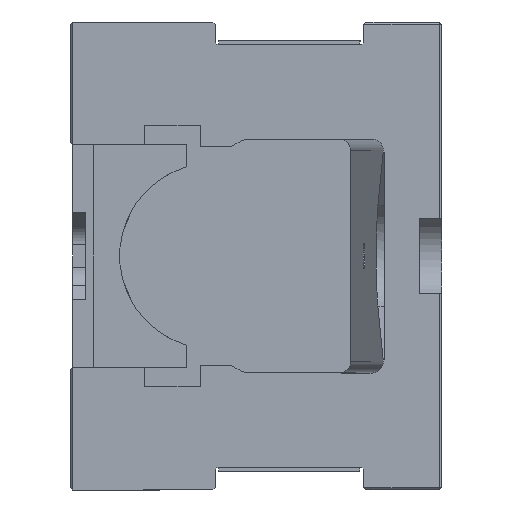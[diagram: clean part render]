
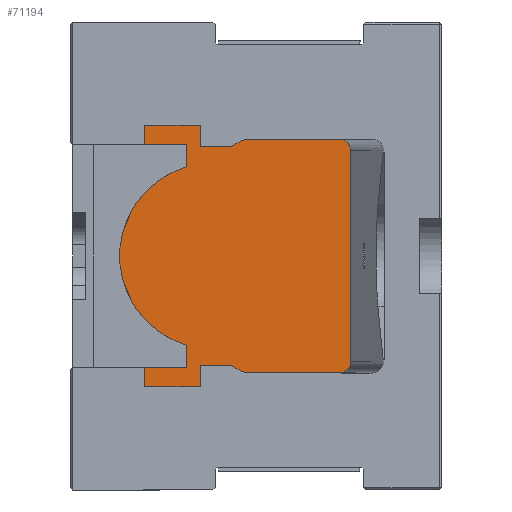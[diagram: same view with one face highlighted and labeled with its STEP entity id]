
A CAD part, left-side view. The second image highlights one B-rep face of the part: STEP entity #71194.
In plain terms, the highlighted planar face has unit normal (-1, 0, 0).
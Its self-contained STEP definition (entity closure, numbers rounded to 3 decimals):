
#980 = LINE ( 'NONE', #30917, #91135 ) ;
#2487 = CARTESIAN_POINT ( 'NONE',  ( 402., 28., 31.5 ) ) ;
#4087 = CARTESIAN_POINT ( 'NONE',  ( 402., 107., -30. ) ) ;
#5705 = DIRECTION ( 'NONE',  ( 0., -1., 0. ) ) ;
#6715 = LINE ( 'NONE', #78131, #30761 ) ;
#7072 = CARTESIAN_POINT ( 'NONE',  ( 402., 100., 30. ) ) ;
#7679 = LINE ( 'NONE', #55949, #52798 ) ;
#13089 = DIRECTION ( 'NONE',  ( 0., 1., 0. ) ) ;
#13829 = ORIENTED_EDGE ( 'NONE', *, *, #88154, .F. ) ;
#14378 = VERTEX_POINT ( 'NONE', #95382 ) ;
#15305 = FACE_OUTER_BOUND ( 'NONE', #49093, .T. ) ;
#17213 = ORIENTED_EDGE ( 'NONE', *, *, #29540, .F. ) ;
#17375 = AXIS2_PLACEMENT_3D ( 'NONE', #95418, #113476, #59634 ) ;
#17490 = LINE ( 'NONE', #47812, #38660 ) ;
#17989 = CARTESIAN_POINT ( 'NONE',  ( 402., 69., 35.25 ) ) ;
#19864 = VERTEX_POINT ( 'NONE', #7072 ) ;
#20087 = LINE ( 'NONE', #4087, #89079 ) ;
#20262 = CARTESIAN_POINT ( 'NONE',  ( 402., 69., -29.5 ) ) ;
#20540 = DIRECTION ( 'NONE',  ( 0., 0., 1. ) ) ;
#21253 = EDGE_CURVE ( 'NONE', #34501, #110810, #55374, .T. ) ;
#21542 = VERTEX_POINT ( 'NONE', #67077 ) ;
#22347 = CARTESIAN_POINT ( 'NONE',  ( 402., 63.737, 27.67 ) ) ;
#23598 = VECTOR ( 'NONE', #44942, 1000. ) ;
#23675 = VECTOR ( 'NONE', #20540, 1000. ) ;
#26853 = CARTESIAN_POINT ( 'NONE',  ( 402., 69., -100. ) ) ;
#27153 = DIRECTION ( 'NONE',  ( 0., 0., -1. ) ) ;
#27631 = CIRCLE ( 'NONE', #44864, 5. ) ;
#28047 = LINE ( 'NONE', #44856, #75945 ) ;
#28235 = EDGE_CURVE ( 'NONE', #71186, #112402, #6715, .T. ) ;
#28368 = CARTESIAN_POINT ( 'NONE',  ( 402., 84., -30. ) ) ;
#28541 = VERTEX_POINT ( 'NONE', #20262 ) ;
#29540 = EDGE_CURVE ( 'NONE', #14378, #56842, #17490, .T. ) ;
#29796 = AXIS2_PLACEMENT_3D ( 'NONE', #90026, #36135, #99121 ) ;
#30761 = VECTOR ( 'NONE', #33299, 1000. ) ;
#30917 = CARTESIAN_POINT ( 'NONE',  ( 402., 100., 57. ) ) ;
#31557 = VERTEX_POINT ( 'NONE', #28368 ) ;
#32651 = EDGE_CURVE ( 'NONE', #110257, #71186, #47495, .T. ) ;
#33299 = DIRECTION ( 'NONE',  ( 0., -1., 0. ) ) ;
#34501 = VERTEX_POINT ( 'NONE', #82040 ) ;
#35041 = LINE ( 'NONE', #90906, #80057 ) ;
#35093 = CARTESIAN_POINT ( 'NONE',  ( 402., 55.763, 26.5 ) ) ;
#36135 = DIRECTION ( 'NONE',  ( -1., 0., 0. ) ) ;
#36353 = VECTOR ( 'NONE', #67240, 1000. ) ;
#36898 = EDGE_CURVE ( 'NONE', #21542, #110257, #40892, .T. ) ;
#37088 = EDGE_CURVE ( 'NONE', #92934, #95354, #115339, .T. ) ;
#38546 = EDGE_CURVE ( 'NONE', #34501, #60691, #27631, .T. ) ;
#38660 = VECTOR ( 'NONE', #94685, 1000. ) ;
#39170 = LINE ( 'NONE', #22347, #36353 ) ;
#40892 = LINE ( 'NONE', #105879, #64834 ) ;
#41563 = ORIENTED_EDGE ( 'NONE', *, *, #96616, .F. ) ;
#42115 = VECTOR ( 'NONE', #92468, 1000. ) ;
#42469 = CARTESIAN_POINT ( 'NONE',  ( 402., 63.737, -27.67 ) ) ;
#42915 = DIRECTION ( 'NONE',  ( 0., -1., 0. ) ) ;
#44152 = DIRECTION ( 'NONE',  ( 0., 0., -1. ) ) ;
#44418 = DIRECTION ( 'NONE',  ( 0., -0.866, -0.5 ) ) ;
#44856 = CARTESIAN_POINT ( 'NONE',  ( 402., 28., 57. ) ) ;
#44864 = AXIS2_PLACEMENT_3D ( 'NONE', #35093, #98112, #44152 ) ;
#44897 = ORIENTED_EDGE ( 'NONE', *, *, #36898, .F. ) ;
#44942 = DIRECTION ( 'NONE',  ( 0., 0., -1. ) ) ;
#45709 = EDGE_CURVE ( 'NONE', #105197, #19864, #980, .T. ) ;
#46931 = DIRECTION ( 'NONE',  ( 0., 0., -1. ) ) ;
#47495 = LINE ( 'NONE', #26853, #23598 ) ;
#47812 = CARTESIAN_POINT ( 'NONE',  ( 402., 107., -35.25 ) ) ;
#49093 = EDGE_LOOP ( 'NONE', ( #55316, #67813, #51807, #80790, #103881, #116790, #112439, #44897, #87606, #13829, #93973, #41563, #62262, #17213, #79993, #73857, #61576, #98366 ) ) ;
#50526 = PLANE ( 'NONE',  #17375 ) ;
#50606 = CARTESIAN_POINT ( 'NONE',  ( 402., 55.763, 31.5 ) ) ;
#51277 = EDGE_CURVE ( 'NONE', #56842, #31557, #71520, .T. ) ;
#51807 = ORIENTED_EDGE ( 'NONE', *, *, #21253, .F. ) ;
#52798 = VECTOR ( 'NONE', #65032, 1000. ) ;
#53457 = LINE ( 'NONE', #81196, #95727 ) ;
#54001 = CARTESIAN_POINT ( 'NONE',  ( 402., 60.567, -29.5 ) ) ;
#55316 = ORIENTED_EDGE ( 'NONE', *, *, #87425, .T. ) ;
#55374 = LINE ( 'NONE', #50606, #100439 ) ;
#55726 = LINE ( 'NONE', #100923, #103640 ) ;
#55949 = CARTESIAN_POINT ( 'NONE',  ( 402., 84., -100. ) ) ;
#56017 = CARTESIAN_POINT ( 'NONE',  ( 402., 28., -31.5 ) ) ;
#56842 = VERTEX_POINT ( 'NONE', #106103 ) ;
#59634 = DIRECTION ( 'NONE',  ( 0., 0., 1. ) ) ;
#60691 = VERTEX_POINT ( 'NONE', #85538 ) ;
#61576 = ORIENTED_EDGE ( 'NONE', *, *, #37088, .T. ) ;
#62262 = ORIENTED_EDGE ( 'NONE', *, *, #51277, .F. ) ;
#64834 = VECTOR ( 'NONE', #42915, 1000. ) ;
#65032 = DIRECTION ( 'NONE',  ( 0., 0., 1. ) ) ;
#65177 = VERTEX_POINT ( 'NONE', #104591 ) ;
#65494 = CARTESIAN_POINT ( 'NONE',  ( 402., 60.567, 29.5 ) ) ;
#67077 = CARTESIAN_POINT ( 'NONE',  ( 402., 84., 35.25 ) ) ;
#67240 = DIRECTION ( 'NONE',  ( 0., 0.866, -0.5 ) ) ;
#67813 = ORIENTED_EDGE ( 'NONE', *, *, #104980, .F. ) ;
#67897 = CARTESIAN_POINT ( 'NONE',  ( 402., 69., 29.5 ) ) ;
#71186 = VERTEX_POINT ( 'NONE', #67897 ) ;
#71194 = ADVANCED_FACE ( 'NONE', ( #15305 ), #50526, .T. ) ;
#71520 = LINE ( 'NONE', #83461, #23675 ) ;
#72494 = CARTESIAN_POINT ( 'NONE',  ( 402., 58.263, -30.83 ) ) ;
#72582 = DIRECTION ( 'NONE',  ( 0., -1., 0. ) ) ;
#73857 = ORIENTED_EDGE ( 'NONE', *, *, #105051, .F. ) ;
#75945 = VECTOR ( 'NONE', #27153, 1000. ) ;
#78131 = CARTESIAN_POINT ( 'NONE',  ( 402., 107., 29.5 ) ) ;
#79993 = ORIENTED_EDGE ( 'NONE', *, *, #113644, .F. ) ;
#79996 = EDGE_CURVE ( 'NONE', #60691, #112402, #39170, .T. ) ;
#80057 = VECTOR ( 'NONE', #108999, 1000. ) ;
#80451 = CIRCLE ( 'NONE', #29796, 5. ) ;
#80790 = ORIENTED_EDGE ( 'NONE', *, *, #38546, .T. ) ;
#81196 = CARTESIAN_POINT ( 'NONE',  ( 402., 107., 30. ) ) ;
#82040 = CARTESIAN_POINT ( 'NONE',  ( 402., 55.763, 31.5 ) ) ;
#83461 = CARTESIAN_POINT ( 'NONE',  ( 402., 84., -100. ) ) ;
#84544 = CARTESIAN_POINT ( 'NONE',  ( 402., 100., -30. ) ) ;
#85538 = CARTESIAN_POINT ( 'NONE',  ( 402., 58.263, 30.83 ) ) ;
#87425 = EDGE_CURVE ( 'NONE', #88487, #112356, #92846, .T. ) ;
#87606 = ORIENTED_EDGE ( 'NONE', *, *, #101281, .F. ) ;
#88154 = EDGE_CURVE ( 'NONE', #19864, #65177, #53457, .T. ) ;
#88487 = VERTEX_POINT ( 'NONE', #95733 ) ;
#89079 = VECTOR ( 'NONE', #13089, 1000. ) ;
#90026 = CARTESIAN_POINT ( 'NONE',  ( 402., 55.763, -26.5 ) ) ;
#90906 = CARTESIAN_POINT ( 'NONE',  ( 402., 107., -29.5 ) ) ;
#91135 = VECTOR ( 'NONE', #93900, 1000. ) ;
#92468 = DIRECTION ( 'NONE',  ( 0., -1., 0. ) ) ;
#92846 = LINE ( 'NONE', #101552, #42115 ) ;
#92934 = VERTEX_POINT ( 'NONE', #54001 ) ;
#93900 = DIRECTION ( 'NONE',  ( 0., 0., 1. ) ) ;
#93973 = ORIENTED_EDGE ( 'NONE', *, *, #45709, .F. ) ;
#94685 = DIRECTION ( 'NONE',  ( 0., 1., 0. ) ) ;
#95354 = VERTEX_POINT ( 'NONE', #72494 ) ;
#95382 = CARTESIAN_POINT ( 'NONE',  ( 402., 69., -35.25 ) ) ;
#95418 = CARTESIAN_POINT ( 'NONE',  ( 402., 0., 0. ) ) ;
#95727 = VECTOR ( 'NONE', #72582, 1000. ) ;
#95733 = CARTESIAN_POINT ( 'NONE',  ( 402., 55.763, -31.5 ) ) ;
#96616 = EDGE_CURVE ( 'NONE', #31557, #105197, #20087, .T. ) ;
#98112 = DIRECTION ( 'NONE',  ( -1., 0., 0. ) ) ;
#98366 = ORIENTED_EDGE ( 'NONE', *, *, #110236, .T. ) ;
#99121 = DIRECTION ( 'NONE',  ( 0., 0., -1. ) ) ;
#100439 = VECTOR ( 'NONE', #5705, 1000. ) ;
#100923 = CARTESIAN_POINT ( 'NONE',  ( 402., 69., -100. ) ) ;
#101281 = EDGE_CURVE ( 'NONE', #65177, #21542, #7679, .T. ) ;
#101552 = CARTESIAN_POINT ( 'NONE',  ( 402., 55.763, -31.5 ) ) ;
#103640 = VECTOR ( 'NONE', #46931, 1000. ) ;
#103881 = ORIENTED_EDGE ( 'NONE', *, *, #79996, .T. ) ;
#104591 = CARTESIAN_POINT ( 'NONE',  ( 402., 84., 30. ) ) ;
#104980 = EDGE_CURVE ( 'NONE', #110810, #112356, #28047, .T. ) ;
#105051 = EDGE_CURVE ( 'NONE', #92934, #28541, #35041, .T. ) ;
#105197 = VERTEX_POINT ( 'NONE', #84544 ) ;
#105879 = CARTESIAN_POINT ( 'NONE',  ( 402., 107., 35.25 ) ) ;
#106103 = CARTESIAN_POINT ( 'NONE',  ( 402., 84., -35.25 ) ) ;
#108999 = DIRECTION ( 'NONE',  ( 0., 1., 0. ) ) ;
#110236 = EDGE_CURVE ( 'NONE', #95354, #88487, #80451, .T. ) ;
#110257 = VERTEX_POINT ( 'NONE', #17989 ) ;
#110810 = VERTEX_POINT ( 'NONE', #2487 ) ;
#112356 = VERTEX_POINT ( 'NONE', #56017 ) ;
#112402 = VERTEX_POINT ( 'NONE', #65494 ) ;
#112439 = ORIENTED_EDGE ( 'NONE', *, *, #32651, .F. ) ;
#112580 = VECTOR ( 'NONE', #44418, 1000. ) ;
#113476 = DIRECTION ( 'NONE',  ( -1., 0., 0. ) ) ;
#113644 = EDGE_CURVE ( 'NONE', #28541, #14378, #55726, .T. ) ;
#115339 = LINE ( 'NONE', #42469, #112580 ) ;
#116790 = ORIENTED_EDGE ( 'NONE', *, *, #28235, .F. ) ;
